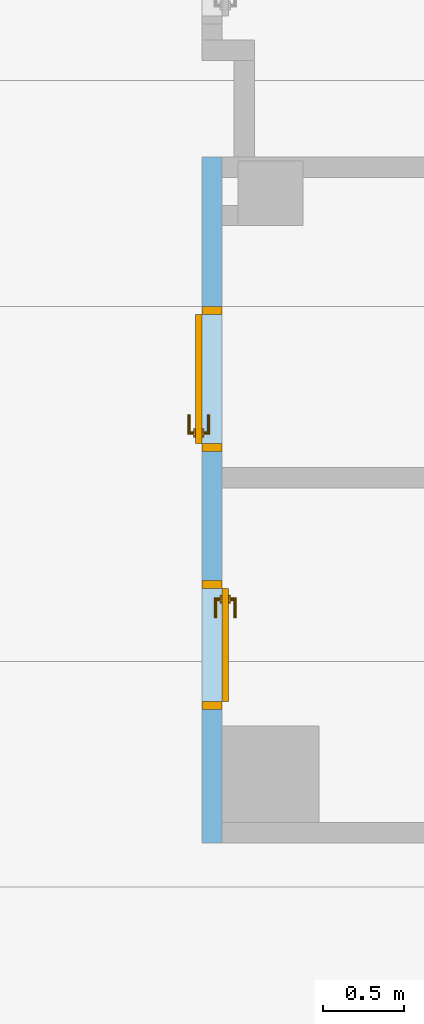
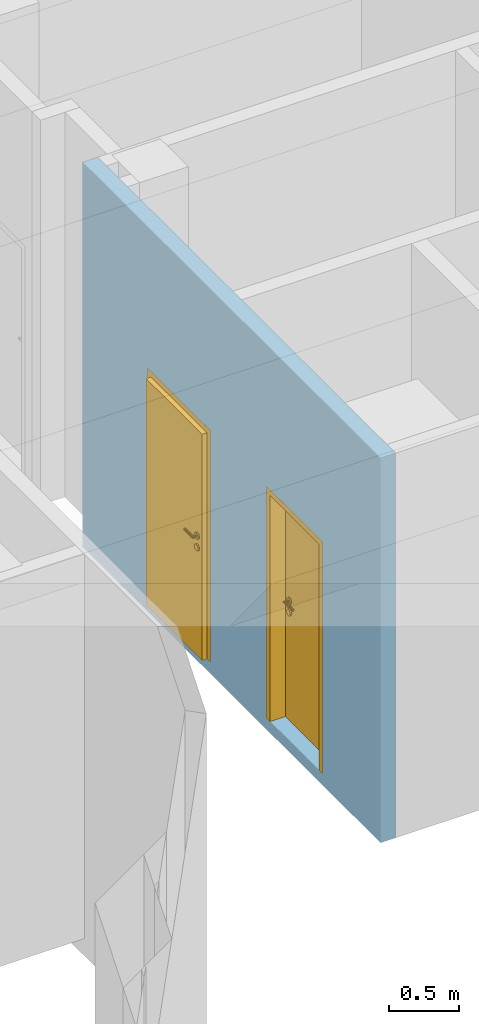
# One storey, part 82 of 140: 2 doors, 2 openings, plus 1 element that does not belong to this part.
"""IFC4 building model written with IfcOpenShell, lengths in metres."""

from ifc_helpers import new_model, entity, si_unit, converted_unit, derived_unit, frame, frame_2d, origin, origin_with_axes, place, context, subcontext, project, spatial, polyline, rectangle, outline, extrude, closed_shell, open_shell, surface_model, source, transform, mapped, material, layer, layer_set, layer_usage, type_object, element, fill, save


model = new_model("IFC4")

# Units and contexts
model_context = context("Model", 3, precision=1e-05, world=origin())
body_context = subcontext(model_context, "Body", "Model", "MODEL_VIEW")
ifc_project = project(units=[si_unit("LENGTHUNIT", "METRE"), si_unit("AREAUNIT", "SQUARE_METRE"), si_unit("VOLUMEUNIT", "CUBIC_METRE"), si_unit("MASSUNIT", "GRAM", prefix="KILO"), converted_unit("PLANEANGLEUNIT", "DEGREE", entity("IfcPlaneAngleMeasure", 0.0174532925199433), si_unit("PLANEANGLEUNIT", "RADIAN"), dimensions=[0, 0, 0, 0, 0, 0, 0]), derived_unit("THERMALTRANSMITTANCEUNIT", [(si_unit("POWERUNIT", "WATT"), 1), (si_unit("THERMODYNAMICTEMPERATUREUNIT", "KELVIN"), -1), (si_unit("LENGTHUNIT", "METRE"), -2)]), derived_unit("VOLUMETRICFLOWRATEUNIT", [(si_unit("LENGTHUNIT", "METRE"), 3), (converted_unit("TIMEUNIT", "hour", entity("IfcTimeMeasure", 3600.0), si_unit("TIMEUNIT", "SECOND"), dimensions=[0, 0, 1, 0, 0, 0, 0]), -1), (si_unit("LENGTHUNIT", "METRE"), -1)])], contexts=[model_context])

# Site, building, storey
site_placement = place(None, origin())
site = spatial("IfcSite", under=ifc_project, at=site_placement, Name="3. ASŘ", CompositionType="ELEMENT")
building_placement = place(site_placement, origin())
building = spatial("IfcBuilding", under=site, at=building_placement, Name="Pavilon C", CompositionType="ELEMENT")
storey_placement = place(building_placement, origin())
storey = spatial("IfcBuildingStorey", under=building, at=storey_placement, Name="Půdorys 1.NP", CompositionType="ELEMENT", Elevation=0.0)

# Wall, openings, doors
ifc_material = material(Name="ZDIVO Z CDm")
ifc_layer = layer(ifc_material, 0.125)
ifc_layer_set = layer_set([ifc_layer])
ifc_layer_usage = layer_usage(ifc_layer_set, "AXIS2", "POSITIVE", 0.0)
wall_placement = place(storey_placement, frame((34.05, 12.775, -0.1), z_axis=(0.0, 0.0, 1.0), x_axis=(0.0, 1.0, 0.0)))
wall = element("IfcWall", 1, at=wall_placement, inside=storey, material=ifc_layer_usage, Name="ZDIVO Z CDm", context=body_context, shape_type="SweptSolid", body=[
    extrude(rectangle(XDim=4.25, YDim=0.125, at=frame_2d((2.125, 0.0625), x_axis=(1.0, 0.0))), origin_with_axes(), (0.0, 0.0, 1.0), 3.35),
])
opening_1_placement = place(wall_placement, frame((1.62499999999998, 0.125, 0.1), z_axis=(0.0, -1.0, 0.0), x_axis=(0.0, 0.0, 1.0)))
opening_1 = element("IfcOpeningElement", 2, at=opening_1_placement, cuts=wall, Name="Dveřní otvor", ObjectType="Opening", context=body_context, shape_type="SweptSolid", body=[
    extrude(outline(polyline([(0.0, 0.8), (2.02, 0.8), (2.02, 0.0), (0.0, 0.0), (0.0, 0.8)])), origin_with_axes(), (0.0, 0.0, 1.0), 0.125),
])
opening_2_placement = place(wall_placement, frame((3.32499999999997, 0.125, 0.1), z_axis=(0.0, -1.0, 0.0), x_axis=(0.0, 0.0, 1.0)))
opening_2 = element("IfcOpeningElement", 3, at=opening_2_placement, cuts=wall, Name="Dveřní otvor", ObjectType="Opening", context=body_context, shape_type="SweptSolid", body=[
    extrude(outline(polyline([(0.0, 0.9), (2.02, 0.9), (2.02, 0.0), (0.0, 0.0), (0.0, 0.9)])), origin_with_axes(), (0.0, 0.0, 1.0), 0.125),
])
door_type_1 = type_object("IfcDoorType", Name="D101", OperationType="NOTDEFINED", ParameterTakesPrecedence=False, PredefinedType="DOOR")
shared_shape_1 = source(origin_with_axes(), body_context, "Body", "SurfaceModel", [
    surface_model("IfcShellBasedSurfaceModel", [(0.0, 0.125, 2.02), (0.0, 0.125, -7.65404249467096e-18), (0.05, 0.125, -7.65404249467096e-18), (0.05, 0.125, 2.02), (0.0, 0.0, 7.65404249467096e-18), (0.0, 2.41584530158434e-16, 2.02), (0.05, 2.41584530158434e-16, 2.02), (0.05, 0.0, 7.65404249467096e-18)], [closed_shell([[[0, 1, 2, 3]], [[4, 5, 6, 7]], [[1, 0, 5, 4]], [[2, 1, 4, 7]], [[3, 2, 7, 6]], [[0, 3, 6, 5]]], orient=[[False], [False], [False], [False], [False], [False]])]),
    surface_model("IfcShellBasedSurfaceModel", [(0.75, 0.125, 2.02), (0.75, 0.125, -7.65404249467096e-18), (0.8, 0.125, -7.65404249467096e-18), (0.8, 0.125, 2.02), (0.75, 0.0, 7.65404249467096e-18), (0.75, 2.41584530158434e-16, 2.02), (0.8, 2.41584530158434e-16, 2.02), (0.8, 0.0, 7.65404249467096e-18)], [closed_shell([[[0, 1, 2, 3]], [[4, 5, 6, 7]], [[1, 0, 5, 4]], [[2, 1, 4, 7]], [[3, 2, 7, 6]], [[0, 3, 6, 5]]], orient=[[False], [False], [False], [False], [False], [False]])]),
    surface_model("IfcShellBasedSurfaceModel", [(0.05, 0.125, 2.02), (0.05, 0.125, 1.97), (0.75, 0.125, 1.97), (0.75, 0.125, 2.02), (0.05, 2.41584530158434e-16, 1.97), (0.05, 2.41584530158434e-16, 2.02), (0.75, 2.41584530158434e-16, 2.02), (0.75, 2.41584530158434e-16, 1.97)], [closed_shell([[[0, 1, 2, 3]], [[4, 5, 6, 7]], [[1, 0, 5, 4]], [[2, 1, 4, 7]], [[3, 2, 7, 6]], [[0, 3, 6, 5]]], orient=[[False], [False], [False], [False], [False], [False]])]),
    surface_model("IfcShellBasedSurfaceModel", [(0.05, 0.165, 1.97), (0.05, 0.165, -1.25526296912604e-17), (0.75, 0.165, -1.25526296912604e-17), (0.75, 0.165, 1.97), (0.05, 0.125, -7.65404249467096e-18), (0.05, 0.125, 1.97), (0.75, 0.125, 1.97), (0.75, 0.125, -7.65404249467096e-18)], [closed_shell([[[0, 1, 2, 3]], [[4, 5, 6, 7]], [[1, 0, 5, 4]], [[2, 1, 4, 7]], [[3, 2, 7, 6]], [[0, 3, 6, 5]]], orient=[[False], [False], [False], [False], [False], [False]])]),
    surface_model("IfcShellBasedSurfaceModel", [(0.708815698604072, 0.125, 0.93625), (0.7125, 0.125, 0.95), (0.708815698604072, 0.125, 0.96375), (0.69875, 0.125, 0.973815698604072), (0.685, 0.125, 0.9775), (0.67125, 0.125, 0.973815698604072), (0.661184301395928, 0.125, 0.96375), (0.6575, 0.125, 0.95), (0.661184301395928, 0.125, 0.93625), (0.67125, 0.125, 0.926184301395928), (0.685, 0.125, 0.9225), (0.69875, 0.125, 0.926184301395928), (0.7125, 0.1125, 0.95), (0.708815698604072, 0.1125, 0.93625), (0.69875, 0.1125, 0.926184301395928), (0.685, 0.1125, 0.9225), (0.67125, 0.1125, 0.926184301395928), (0.661184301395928, 0.1125, 0.93625), (0.6575, 0.1125, 0.95), (0.661184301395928, 0.1125, 0.96375), (0.67125, 0.1125, 0.973815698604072), (0.685, 0.1125, 0.9775), (0.69875, 0.1125, 0.973815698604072), (0.708815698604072, 0.1125, 0.96375)], [closed_shell([[[0, 1, 2, 3, 4, 5, 6, 7, 8, 9, 10, 11]], [[12, 13, 14, 15, 16, 17, 18, 19, 20, 21, 22, 23]], [[1, 0, 13, 12]], [[2, 1, 12, 23]], [[3, 2, 23, 22]], [[4, 3, 22, 21]], [[5, 4, 21, 20]], [[6, 5, 20, 19]], [[7, 6, 19, 18]], [[8, 7, 18, 17]], [[9, 8, 17, 16]], [[10, 9, 16, 15]], [[11, 10, 15, 14]], [[0, 11, 14, 13]]], orient=[[False], [False], [False], [False], [False], [False], [False], [False], [False], [False], [False], [False], [False], [False]])]),
    surface_model("IfcShellBasedSurfaceModel", [(0.708815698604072, 0.125, 1.03625), (0.7125, 0.125, 1.05), (0.708815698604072, 0.125, 1.06375), (0.69875, 0.125, 1.07381569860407), (0.685, 0.125, 1.0775), (0.67125, 0.125, 1.07381569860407), (0.661184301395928, 0.125, 1.06375), (0.6575, 0.125, 1.05), (0.661184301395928, 0.125, 1.03625), (0.67125, 0.125, 1.02618430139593), (0.685, 0.125, 1.0225), (0.69875, 0.125, 1.02618430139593), (0.7125, 0.1125, 1.05), (0.708815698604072, 0.1125, 1.03625), (0.69875, 0.1125, 1.02618430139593), (0.685, 0.1125, 1.0225), (0.67125, 0.1125, 1.02618430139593), (0.661184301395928, 0.1125, 1.03625), (0.6575, 0.1125, 1.05), (0.661184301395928, 0.1125, 1.06375), (0.67125, 0.1125, 1.07381569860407), (0.685, 0.1125, 1.0775), (0.69875, 0.1125, 1.07381569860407), (0.708815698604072, 0.1125, 1.06375)], [closed_shell([[[0, 1, 2, 3, 4, 5, 6, 7, 8, 9, 10, 11]], [[12, 13, 14, 15, 16, 17, 18, 19, 20, 21, 22, 23]], [[1, 0, 13, 12]], [[2, 1, 12, 23]], [[3, 2, 23, 22]], [[4, 3, 22, 21]], [[5, 4, 21, 20]], [[6, 5, 20, 19]], [[7, 6, 19, 18]], [[8, 7, 18, 17]], [[9, 8, 17, 16]], [[10, 9, 16, 15]], [[11, 10, 15, 14]], [[0, 11, 14, 13]]], orient=[[False], [False], [False], [False], [False], [False], [False], [False], [False], [False], [False], [False], [False], [False]])]),
    surface_model("IfcShellBasedSurfaceModel", [(0.685, 0.125, 1.06), (0.68, 0.125, 1.05866025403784), (0.676339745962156, 0.125, 1.055), (0.675, 0.125, 1.05), (0.676339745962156, 0.125, 1.045), (0.68, 0.125, 1.04133974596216), (0.685, 0.125, 1.04), (0.69, 0.125, 1.04133974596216), (0.693660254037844, 0.125, 1.045), (0.695, 0.125, 1.05), (0.693660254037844, 0.125, 1.055), (0.69, 0.125, 1.05866025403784), (0.69, 0.0800000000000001, 1.05866025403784), (0.685, 0.0850000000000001, 1.06), (0.693660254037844, 0.0763397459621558, 1.055), (0.695, 0.0750000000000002, 1.05), (0.693660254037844, 0.0763397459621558, 1.045), (0.69, 0.0800000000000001, 1.04133974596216), (0.685, 0.0850000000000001, 1.04), (0.68, 0.0900000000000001, 1.04133974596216), (0.676339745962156, 0.0936602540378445, 1.045), (0.675, 0.0950000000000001, 1.05), (0.676339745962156, 0.0936602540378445, 1.055), (0.68, 0.0900000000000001, 1.05866025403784), (0.57, 0.0800000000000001, 1.05866025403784), (0.57, 0.0850000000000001, 1.06), (0.57, 0.0763397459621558, 1.055), (0.57, 0.0750000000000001, 1.05), (0.57, 0.0763397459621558, 1.045), (0.57, 0.0800000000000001, 1.04133974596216), (0.57, 0.0850000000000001, 1.04), (0.57, 0.0900000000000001, 1.04133974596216), (0.57, 0.0936602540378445, 1.045), (0.57, 0.0950000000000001, 1.05), (0.57, 0.0936602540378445, 1.055), (0.57, 0.0900000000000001, 1.05866025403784)], [open_shell([[[0, 1, 2, 3, 4, 5, 6, 7, 8, 9, 10, 11]], [[0, 11, 12, 13]], [[11, 10, 14, 12]], [[10, 9, 15, 14]], [[9, 8, 16, 15]], [[8, 7, 17, 16]], [[7, 6, 18, 17]], [[6, 5, 19, 18]], [[5, 4, 20, 19]], [[4, 3, 21, 20]], [[3, 2, 22, 21]], [[2, 1, 23, 22]], [[1, 0, 13, 23]], [[13, 12, 24, 25]], [[12, 14, 26, 24]], [[14, 15, 27, 26]], [[15, 16, 28, 27]], [[16, 17, 29, 28]], [[17, 18, 30, 29]], [[18, 19, 31, 30]], [[19, 20, 32, 31]], [[20, 21, 33, 32]], [[21, 22, 34, 33]], [[22, 23, 35, 34]], [[23, 13, 25, 35]]], orient=[[False], [False], [False], [False], [False], [False], [False], [False], [False], [False], [False], [False], [False], [False], [False], [False], [False], [False], [False], [False], [False], [False], [False], [False], [False]])]),
    surface_model("IfcShellBasedSurfaceModel", [(0.708815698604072, 0.165, 0.93625), (0.69875, 0.165, 0.926184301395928), (0.685, 0.165, 0.9225), (0.67125, 0.165, 0.926184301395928), (0.661184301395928, 0.165, 0.93625), (0.6575, 0.165, 0.95), (0.661184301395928, 0.165, 0.96375), (0.67125, 0.165, 0.973815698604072), (0.685, 0.165, 0.9775), (0.69875, 0.165, 0.973815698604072), (0.708815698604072, 0.165, 0.96375), (0.7125, 0.165, 0.95), (0.7125, 0.1775, 0.95), (0.708815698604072, 0.1775, 0.96375), (0.69875, 0.1775, 0.973815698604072), (0.685, 0.1775, 0.9775), (0.67125, 0.1775, 0.973815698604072), (0.661184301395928, 0.1775, 0.96375), (0.6575, 0.1775, 0.95), (0.661184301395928, 0.1775, 0.93625), (0.67125, 0.1775, 0.926184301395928), (0.685, 0.1775, 0.9225), (0.69875, 0.1775, 0.926184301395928), (0.708815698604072, 0.1775, 0.93625)], [closed_shell([[[0, 1, 2, 3, 4, 5, 6, 7, 8, 9, 10, 11]], [[12, 13, 14, 15, 16, 17, 18, 19, 20, 21, 22, 23]], [[11, 12, 23, 0]], [[10, 13, 12, 11]], [[9, 14, 13, 10]], [[8, 15, 14, 9]], [[7, 16, 15, 8]], [[6, 17, 16, 7]], [[5, 18, 17, 6]], [[4, 19, 18, 5]], [[3, 20, 19, 4]], [[2, 21, 20, 3]], [[1, 22, 21, 2]], [[0, 23, 22, 1]]], orient=[[False], [False], [False], [False], [False], [False], [False], [False], [False], [False], [False], [False], [False], [False]])]),
    surface_model("IfcShellBasedSurfaceModel", [(0.708815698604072, 0.165, 1.03625), (0.69875, 0.165, 1.02618430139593), (0.685, 0.165, 1.0225), (0.67125, 0.165, 1.02618430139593), (0.661184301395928, 0.165, 1.03625), (0.6575, 0.165, 1.05), (0.661184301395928, 0.165, 1.06375), (0.67125, 0.165, 1.07381569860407), (0.685, 0.165, 1.0775), (0.69875, 0.165, 1.07381569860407), (0.708815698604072, 0.165, 1.06375), (0.7125, 0.165, 1.05), (0.7125, 0.1775, 1.05), (0.708815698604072, 0.1775, 1.06375), (0.69875, 0.1775, 1.07381569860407), (0.685, 0.1775, 1.0775), (0.67125, 0.1775, 1.07381569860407), (0.661184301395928, 0.1775, 1.06375), (0.6575, 0.1775, 1.05), (0.661184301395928, 0.1775, 1.03625), (0.67125, 0.1775, 1.02618430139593), (0.685, 0.1775, 1.0225), (0.69875, 0.1775, 1.02618430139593), (0.708815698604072, 0.1775, 1.03625)], [closed_shell([[[0, 1, 2, 3, 4, 5, 6, 7, 8, 9, 10, 11]], [[12, 13, 14, 15, 16, 17, 18, 19, 20, 21, 22, 23]], [[11, 12, 23, 0]], [[10, 13, 12, 11]], [[9, 14, 13, 10]], [[8, 15, 14, 9]], [[7, 16, 15, 8]], [[6, 17, 16, 7]], [[5, 18, 17, 6]], [[4, 19, 18, 5]], [[3, 20, 19, 4]], [[2, 21, 20, 3]], [[1, 22, 21, 2]], [[0, 23, 22, 1]]], orient=[[False], [False], [False], [False], [False], [False], [False], [False], [False], [False], [False], [False], [False], [False]])]),
    surface_model("IfcShellBasedSurfaceModel", [(0.685, 0.165, 1.06), (0.69, 0.165, 1.05866025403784), (0.693660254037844, 0.165, 1.055), (0.695, 0.165, 1.05), (0.693660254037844, 0.165, 1.045), (0.69, 0.165, 1.04133974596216), (0.685, 0.165, 1.04), (0.68, 0.165, 1.04133974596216), (0.676339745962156, 0.165, 1.045), (0.675, 0.165, 1.05), (0.676339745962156, 0.165, 1.055), (0.68, 0.165, 1.05866025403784), (0.685, 0.205, 1.06), (0.69, 0.21, 1.05866025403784), (0.693660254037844, 0.213660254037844, 1.055), (0.695, 0.215, 1.05), (0.693660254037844, 0.213660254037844, 1.045), (0.69, 0.21, 1.04133974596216), (0.685, 0.205, 1.04), (0.68, 0.2, 1.04133974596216), (0.676339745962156, 0.196339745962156, 1.045), (0.675, 0.195, 1.05), (0.676339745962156, 0.196339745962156, 1.055), (0.68, 0.2, 1.05866025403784), (0.57, 0.205, 1.06), (0.57, 0.21, 1.05866025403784), (0.57, 0.213660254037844, 1.055), (0.57, 0.215, 1.05), (0.57, 0.213660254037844, 1.045), (0.57, 0.21, 1.04133974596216), (0.57, 0.205, 1.04), (0.57, 0.2, 1.04133974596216), (0.57, 0.196339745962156, 1.045), (0.57, 0.195, 1.05), (0.57, 0.196339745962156, 1.055), (0.57, 0.2, 1.05866025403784)], [open_shell([[[0, 1, 2, 3, 4, 5, 6, 7, 8, 9, 10, 11]], [[0, 12, 13, 1]], [[1, 13, 14, 2]], [[2, 14, 15, 3]], [[3, 15, 16, 4]], [[4, 16, 17, 5]], [[5, 17, 18, 6]], [[6, 18, 19, 7]], [[7, 19, 20, 8]], [[8, 20, 21, 9]], [[9, 21, 22, 10]], [[10, 22, 23, 11]], [[11, 23, 12, 0]], [[12, 24, 25, 13]], [[13, 25, 26, 14]], [[14, 26, 27, 15]], [[15, 27, 28, 16]], [[16, 28, 29, 17]], [[17, 29, 30, 18]], [[18, 30, 31, 19]], [[19, 31, 32, 20]], [[20, 32, 33, 21]], [[21, 33, 34, 22]], [[22, 34, 35, 23]], [[23, 35, 24, 12]]], orient=[[False], [False], [False], [False], [False], [False], [False], [False], [False], [False], [False], [False], [False], [False], [False], [False], [False], [False], [False], [False], [False], [False], [False], [False], [False]])]),
])
door_1_placement = place(opening_1_placement, frame((0.0, 0.800000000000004, -1.45519152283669e-14), z_axis=(1.0, 0.0, 0.0), x_axis=(0.0, -1.0, -1.22464679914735e-16)))
door_1 = element("IfcDoor", 4, at=door_1_placement, inside=storey, type_object=door_type_1, Name="D101", OverallHeight=2.02, OverallWidth=0.8, context=body_context, shape_type="MappedRepresentation", body=[
    mapped(shared_shape_1, transform((0.0, 0.0, 0.0), x_axis=(1.0, 0.0, 0.0), y_axis=(0.0, -1.0, 0.0), z_axis=(0.0, 0.0, 1.0), scale=1.0)),
])
fill(opening_1, door_1)
door_type_2 = type_object("IfcDoorType", Name="D101", OperationType="NOTDEFINED", ParameterTakesPrecedence=False, PredefinedType="DOOR")
shared_shape_2 = source(origin_with_axes(), body_context, "Body", "SurfaceModel", [
    surface_model("IfcShellBasedSurfaceModel", [(0.0, 0.125, 2.02), (0.0, 0.125, -7.65404249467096e-18), (0.05, 0.125, -7.65404249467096e-18), (0.05, 0.125, 2.02), (0.0, 0.0, 7.65404249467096e-18), (0.0, 2.41584530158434e-16, 2.02), (0.05, 2.41584530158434e-16, 2.02), (0.05, 0.0, 7.65404249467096e-18)], [closed_shell([[[0, 1, 2, 3]], [[4, 5, 6, 7]], [[1, 0, 5, 4]], [[2, 1, 4, 7]], [[3, 2, 7, 6]], [[0, 3, 6, 5]]], orient=[[False], [False], [False], [False], [False], [False]])]),
    surface_model("IfcShellBasedSurfaceModel", [(0.85, 0.125, 2.02), (0.85, 0.125, -7.65404249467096e-18), (0.9, 0.125, -7.65404249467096e-18), (0.9, 0.125, 2.02), (0.85, 0.0, 7.65404249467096e-18), (0.85, 2.41584530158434e-16, 2.02), (0.9, 2.41584530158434e-16, 2.02), (0.9, 0.0, 7.65404249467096e-18)], [closed_shell([[[0, 1, 2, 3]], [[4, 5, 6, 7]], [[1, 0, 5, 4]], [[2, 1, 4, 7]], [[3, 2, 7, 6]], [[0, 3, 6, 5]]], orient=[[False], [False], [False], [False], [False], [False]])]),
    surface_model("IfcShellBasedSurfaceModel", [(0.05, 0.125, 2.02), (0.05, 0.125, 1.97), (0.85, 0.125, 1.97), (0.85, 0.125, 2.02), (0.05, 2.41584530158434e-16, 1.97), (0.05, 2.41584530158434e-16, 2.02), (0.85, 2.41584530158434e-16, 2.02), (0.85, 2.41584530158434e-16, 1.97)], [closed_shell([[[0, 1, 2, 3]], [[4, 5, 6, 7]], [[1, 0, 5, 4]], [[2, 1, 4, 7]], [[3, 2, 7, 6]], [[0, 3, 6, 5]]], orient=[[False], [False], [False], [False], [False], [False]])]),
    surface_model("IfcShellBasedSurfaceModel", [(0.05, 0.165, 1.97), (0.05, 0.165, -1.25526296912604e-17), (0.85, 0.165, -1.25526296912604e-17), (0.85, 0.165, 1.97), (0.05, 0.125, -7.65404249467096e-18), (0.05, 0.125, 1.97), (0.85, 0.125, 1.97), (0.85, 0.125, -7.65404249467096e-18)], [closed_shell([[[0, 1, 2, 3]], [[4, 5, 6, 7]], [[1, 0, 5, 4]], [[2, 1, 4, 7]], [[3, 2, 7, 6]], [[0, 3, 6, 5]]], orient=[[False], [False], [False], [False], [False], [False]])]),
    surface_model("IfcShellBasedSurfaceModel", [(0.808815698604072, 0.125, 0.93625), (0.8125, 0.125, 0.95), (0.808815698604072, 0.125, 0.96375), (0.79875, 0.125, 0.973815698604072), (0.785, 0.125, 0.9775), (0.77125, 0.125, 0.973815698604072), (0.761184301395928, 0.125, 0.96375), (0.7575, 0.125, 0.95), (0.761184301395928, 0.125, 0.93625), (0.77125, 0.125, 0.926184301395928), (0.785, 0.125, 0.9225), (0.79875, 0.125, 0.926184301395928), (0.8125, 0.1125, 0.95), (0.808815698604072, 0.1125, 0.93625), (0.79875, 0.1125, 0.926184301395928), (0.785, 0.1125, 0.9225), (0.77125, 0.1125, 0.926184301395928), (0.761184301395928, 0.1125, 0.93625), (0.7575, 0.1125, 0.95), (0.761184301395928, 0.1125, 0.96375), (0.77125, 0.1125, 0.973815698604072), (0.785, 0.1125, 0.9775), (0.79875, 0.1125, 0.973815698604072), (0.808815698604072, 0.1125, 0.96375)], [closed_shell([[[0, 1, 2, 3, 4, 5, 6, 7, 8, 9, 10, 11]], [[12, 13, 14, 15, 16, 17, 18, 19, 20, 21, 22, 23]], [[1, 0, 13, 12]], [[2, 1, 12, 23]], [[3, 2, 23, 22]], [[4, 3, 22, 21]], [[5, 4, 21, 20]], [[6, 5, 20, 19]], [[7, 6, 19, 18]], [[8, 7, 18, 17]], [[9, 8, 17, 16]], [[10, 9, 16, 15]], [[11, 10, 15, 14]], [[0, 11, 14, 13]]], orient=[[False], [False], [False], [False], [False], [False], [False], [False], [False], [False], [False], [False], [False], [False]])]),
    surface_model("IfcShellBasedSurfaceModel", [(0.808815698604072, 0.125, 1.03625), (0.8125, 0.125, 1.05), (0.808815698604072, 0.125, 1.06375), (0.79875, 0.125, 1.07381569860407), (0.785, 0.125, 1.0775), (0.77125, 0.125, 1.07381569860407), (0.761184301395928, 0.125, 1.06375), (0.7575, 0.125, 1.05), (0.761184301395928, 0.125, 1.03625), (0.77125, 0.125, 1.02618430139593), (0.785, 0.125, 1.0225), (0.79875, 0.125, 1.02618430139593), (0.8125, 0.1125, 1.05), (0.808815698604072, 0.1125, 1.03625), (0.79875, 0.1125, 1.02618430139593), (0.785, 0.1125, 1.0225), (0.77125, 0.1125, 1.02618430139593), (0.761184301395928, 0.1125, 1.03625), (0.7575, 0.1125, 1.05), (0.761184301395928, 0.1125, 1.06375), (0.77125, 0.1125, 1.07381569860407), (0.785, 0.1125, 1.0775), (0.79875, 0.1125, 1.07381569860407), (0.808815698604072, 0.1125, 1.06375)], [closed_shell([[[0, 1, 2, 3, 4, 5, 6, 7, 8, 9, 10, 11]], [[12, 13, 14, 15, 16, 17, 18, 19, 20, 21, 22, 23]], [[1, 0, 13, 12]], [[2, 1, 12, 23]], [[3, 2, 23, 22]], [[4, 3, 22, 21]], [[5, 4, 21, 20]], [[6, 5, 20, 19]], [[7, 6, 19, 18]], [[8, 7, 18, 17]], [[9, 8, 17, 16]], [[10, 9, 16, 15]], [[11, 10, 15, 14]], [[0, 11, 14, 13]]], orient=[[False], [False], [False], [False], [False], [False], [False], [False], [False], [False], [False], [False], [False], [False]])]),
    surface_model("IfcShellBasedSurfaceModel", [(0.785, 0.125, 1.06), (0.78, 0.125, 1.05866025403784), (0.776339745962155, 0.125, 1.055), (0.775, 0.125, 1.05), (0.776339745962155, 0.125, 1.045), (0.78, 0.125, 1.04133974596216), (0.785, 0.125, 1.04), (0.79, 0.125, 1.04133974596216), (0.793660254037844, 0.125, 1.045), (0.795, 0.125, 1.05), (0.793660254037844, 0.125, 1.055), (0.79, 0.125, 1.05866025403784), (0.79, 0.0800000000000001, 1.05866025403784), (0.785, 0.0850000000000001, 1.06), (0.793660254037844, 0.0763397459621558, 1.055), (0.795, 0.0750000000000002, 1.05), (0.793660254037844, 0.0763397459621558, 1.045), (0.79, 0.0800000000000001, 1.04133974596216), (0.785, 0.0850000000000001, 1.04), (0.78, 0.0900000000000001, 1.04133974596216), (0.776339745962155, 0.0936602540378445, 1.045), (0.775, 0.0950000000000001, 1.05), (0.776339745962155, 0.0936602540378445, 1.055), (0.78, 0.0900000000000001, 1.05866025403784), (0.67, 0.0800000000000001, 1.05866025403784), (0.67, 0.0850000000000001, 1.06), (0.67, 0.0763397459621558, 1.055), (0.67, 0.0750000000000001, 1.05), (0.67, 0.0763397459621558, 1.045), (0.67, 0.0800000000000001, 1.04133974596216), (0.67, 0.0850000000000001, 1.04), (0.67, 0.0900000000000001, 1.04133974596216), (0.67, 0.0936602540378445, 1.045), (0.67, 0.0950000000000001, 1.05), (0.67, 0.0936602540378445, 1.055), (0.67, 0.0900000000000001, 1.05866025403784)], [open_shell([[[0, 1, 2, 3, 4, 5, 6, 7, 8, 9, 10, 11]], [[0, 11, 12, 13]], [[11, 10, 14, 12]], [[10, 9, 15, 14]], [[9, 8, 16, 15]], [[8, 7, 17, 16]], [[7, 6, 18, 17]], [[6, 5, 19, 18]], [[5, 4, 20, 19]], [[4, 3, 21, 20]], [[3, 2, 22, 21]], [[2, 1, 23, 22]], [[1, 0, 13, 23]], [[13, 12, 24, 25]], [[12, 14, 26, 24]], [[14, 15, 27, 26]], [[15, 16, 28, 27]], [[16, 17, 29, 28]], [[17, 18, 30, 29]], [[18, 19, 31, 30]], [[19, 20, 32, 31]], [[20, 21, 33, 32]], [[21, 22, 34, 33]], [[22, 23, 35, 34]], [[23, 13, 25, 35]]], orient=[[False], [False], [False], [False], [False], [False], [False], [False], [False], [False], [False], [False], [False], [False], [False], [False], [False], [False], [False], [False], [False], [False], [False], [False], [False]])]),
    surface_model("IfcShellBasedSurfaceModel", [(0.808815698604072, 0.165, 0.93625), (0.79875, 0.165, 0.926184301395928), (0.785, 0.165, 0.9225), (0.77125, 0.165, 0.926184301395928), (0.761184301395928, 0.165, 0.93625), (0.7575, 0.165, 0.95), (0.761184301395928, 0.165, 0.96375), (0.77125, 0.165, 0.973815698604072), (0.785, 0.165, 0.9775), (0.79875, 0.165, 0.973815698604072), (0.808815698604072, 0.165, 0.96375), (0.8125, 0.165, 0.95), (0.8125, 0.1775, 0.95), (0.808815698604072, 0.1775, 0.96375), (0.79875, 0.1775, 0.973815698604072), (0.785, 0.1775, 0.9775), (0.77125, 0.1775, 0.973815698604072), (0.761184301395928, 0.1775, 0.96375), (0.7575, 0.1775, 0.95), (0.761184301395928, 0.1775, 0.93625), (0.77125, 0.1775, 0.926184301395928), (0.785, 0.1775, 0.9225), (0.79875, 0.1775, 0.926184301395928), (0.808815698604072, 0.1775, 0.93625)], [closed_shell([[[0, 1, 2, 3, 4, 5, 6, 7, 8, 9, 10, 11]], [[12, 13, 14, 15, 16, 17, 18, 19, 20, 21, 22, 23]], [[11, 12, 23, 0]], [[10, 13, 12, 11]], [[9, 14, 13, 10]], [[8, 15, 14, 9]], [[7, 16, 15, 8]], [[6, 17, 16, 7]], [[5, 18, 17, 6]], [[4, 19, 18, 5]], [[3, 20, 19, 4]], [[2, 21, 20, 3]], [[1, 22, 21, 2]], [[0, 23, 22, 1]]], orient=[[False], [False], [False], [False], [False], [False], [False], [False], [False], [False], [False], [False], [False], [False]])]),
    surface_model("IfcShellBasedSurfaceModel", [(0.808815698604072, 0.165, 1.03625), (0.79875, 0.165, 1.02618430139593), (0.785, 0.165, 1.0225), (0.77125, 0.165, 1.02618430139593), (0.761184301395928, 0.165, 1.03625), (0.7575, 0.165, 1.05), (0.761184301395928, 0.165, 1.06375), (0.77125, 0.165, 1.07381569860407), (0.785, 0.165, 1.0775), (0.79875, 0.165, 1.07381569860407), (0.808815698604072, 0.165, 1.06375), (0.8125, 0.165, 1.05), (0.8125, 0.1775, 1.05), (0.808815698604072, 0.1775, 1.06375), (0.79875, 0.1775, 1.07381569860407), (0.785, 0.1775, 1.0775), (0.77125, 0.1775, 1.07381569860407), (0.761184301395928, 0.1775, 1.06375), (0.7575, 0.1775, 1.05), (0.761184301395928, 0.1775, 1.03625), (0.77125, 0.1775, 1.02618430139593), (0.785, 0.1775, 1.0225), (0.79875, 0.1775, 1.02618430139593), (0.808815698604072, 0.1775, 1.03625)], [closed_shell([[[0, 1, 2, 3, 4, 5, 6, 7, 8, 9, 10, 11]], [[12, 13, 14, 15, 16, 17, 18, 19, 20, 21, 22, 23]], [[11, 12, 23, 0]], [[10, 13, 12, 11]], [[9, 14, 13, 10]], [[8, 15, 14, 9]], [[7, 16, 15, 8]], [[6, 17, 16, 7]], [[5, 18, 17, 6]], [[4, 19, 18, 5]], [[3, 20, 19, 4]], [[2, 21, 20, 3]], [[1, 22, 21, 2]], [[0, 23, 22, 1]]], orient=[[False], [False], [False], [False], [False], [False], [False], [False], [False], [False], [False], [False], [False], [False]])]),
    surface_model("IfcShellBasedSurfaceModel", [(0.785, 0.165, 1.06), (0.79, 0.165, 1.05866025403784), (0.793660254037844, 0.165, 1.055), (0.795, 0.165, 1.05), (0.793660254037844, 0.165, 1.045), (0.79, 0.165, 1.04133974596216), (0.785, 0.165, 1.04), (0.78, 0.165, 1.04133974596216), (0.776339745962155, 0.165, 1.045), (0.775, 0.165, 1.05), (0.776339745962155, 0.165, 1.055), (0.78, 0.165, 1.05866025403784), (0.785, 0.205, 1.06), (0.79, 0.21, 1.05866025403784), (0.793660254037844, 0.213660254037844, 1.055), (0.795, 0.215, 1.05), (0.793660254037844, 0.213660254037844, 1.045), (0.79, 0.21, 1.04133974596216), (0.785, 0.205, 1.04), (0.78, 0.2, 1.04133974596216), (0.776339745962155, 0.196339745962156, 1.045), (0.775, 0.195, 1.05), (0.776339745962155, 0.196339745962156, 1.055), (0.78, 0.2, 1.05866025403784), (0.67, 0.205, 1.06), (0.67, 0.21, 1.05866025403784), (0.67, 0.213660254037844, 1.055), (0.67, 0.215, 1.05), (0.67, 0.213660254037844, 1.045), (0.67, 0.21, 1.04133974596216), (0.67, 0.205, 1.04), (0.67, 0.2, 1.04133974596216), (0.67, 0.196339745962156, 1.045), (0.67, 0.195, 1.05), (0.67, 0.196339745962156, 1.055), (0.67, 0.2, 1.05866025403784)], [open_shell([[[0, 1, 2, 3, 4, 5, 6, 7, 8, 9, 10, 11]], [[0, 12, 13, 1]], [[1, 13, 14, 2]], [[2, 14, 15, 3]], [[3, 15, 16, 4]], [[4, 16, 17, 5]], [[5, 17, 18, 6]], [[6, 18, 19, 7]], [[7, 19, 20, 8]], [[8, 20, 21, 9]], [[9, 21, 22, 10]], [[10, 22, 23, 11]], [[11, 23, 12, 0]], [[12, 24, 25, 13]], [[13, 25, 26, 14]], [[14, 26, 27, 15]], [[15, 27, 28, 16]], [[16, 28, 29, 17]], [[17, 29, 30, 18]], [[18, 30, 31, 19]], [[19, 31, 32, 20]], [[20, 32, 33, 21]], [[21, 33, 34, 22]], [[22, 34, 35, 23]], [[23, 35, 24, 12]]], orient=[[False], [False], [False], [False], [False], [False], [False], [False], [False], [False], [False], [False], [False], [False], [False], [False], [False], [False], [False], [False], [False], [False], [False], [False], [False]])]),
])
door_2_placement = place(opening_2_placement, frame((0.0, 3.63797880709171e-15, 0.124999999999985), z_axis=(1.0, 0.0, 0.0), x_axis=(0.0, 1.0, -1.22464679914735e-16)))
door_2 = element("IfcDoor", 5, at=door_2_placement, inside=storey, type_object=door_type_2, Name="D101", OverallHeight=2.02, OverallWidth=0.9, context=body_context, shape_type="MappedRepresentation", body=[
    mapped(shared_shape_2, transform((0.0, 0.0, 0.0), x_axis=(1.0, 0.0, 0.0), y_axis=(0.0, -1.0, 0.0), z_axis=(0.0, 0.0, 1.0), scale=1.0)),
])
fill(opening_2, door_2)

save(model, "model.ifc")
